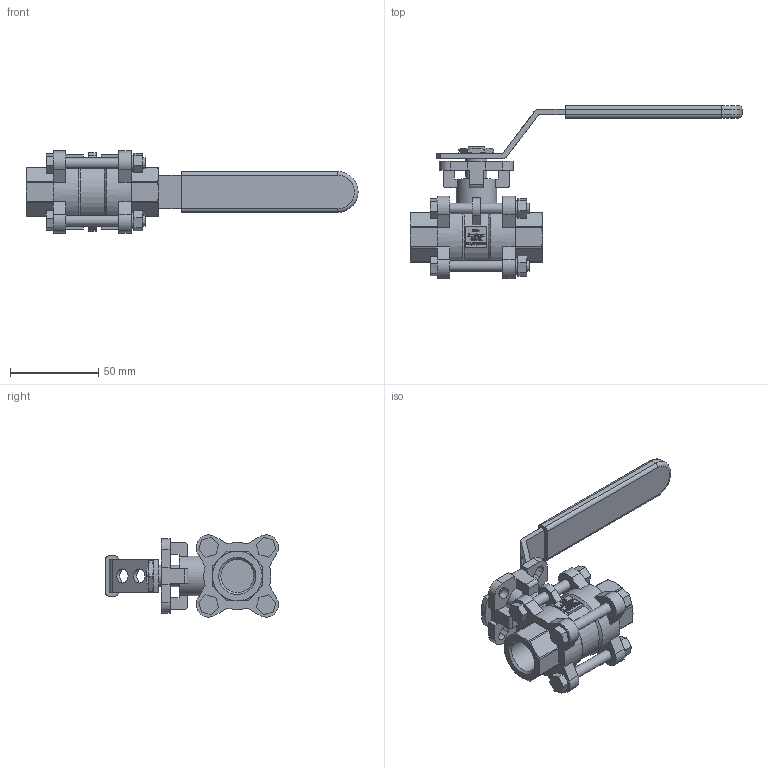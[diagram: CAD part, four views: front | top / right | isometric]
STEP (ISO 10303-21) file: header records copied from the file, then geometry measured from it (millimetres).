
FILE_DESCRIPTION((''),'2;1');
FILE_NAME('K:\Inventor\1 Artikel\11) Muffen-Kugelhähne\11a) manuell\Econosto\470-VA, 7444ISO\470-VA, G0,5\470-VA, G0,5, 3D\470-VA, G0,5, PN68, HH, 3D.stp','2019-10-23T12:34:10',('claudia'),(''),'Autodesk Inventor 2013','Autodesk Inventor 2013','');
FILE_SCHEMA(('AUTOMOTIVE_DESIGN { 1 0 10303 214 1 1 1 1 }'));
Length unit declared in the file: millimetre
Products named in the file (1): Bauteil17
Bounding box: 187.83 x 97.86 x 46.53 mm (x, y, z)
Volume: 111429.5 mm3; surface area: 35651.1 mm2
Topology: 1 solids, 1 shells, 1401 faces, 3790 edges, 2516 vertices
Faces by surface type: plane 834, bspline 453, cylinder 80, cone 32, torus 2
Full cylindrical faces by diameter (mm): 6 x8, 6.5 x2, 8 x2, 9 x4, 12 x1, 18.631 x2, 23 x1, 26 x1, 38 x2
Entity records: 47278 total; most frequent: CARTESIAN_POINT 15109, ORIENTED_EDGE 7512, DIRECTION 4911, EDGE_CURVE 3756, VECTOR 2555, LINE 2555, VERTEX_POINT 2507, EDGE_LOOP 1583
